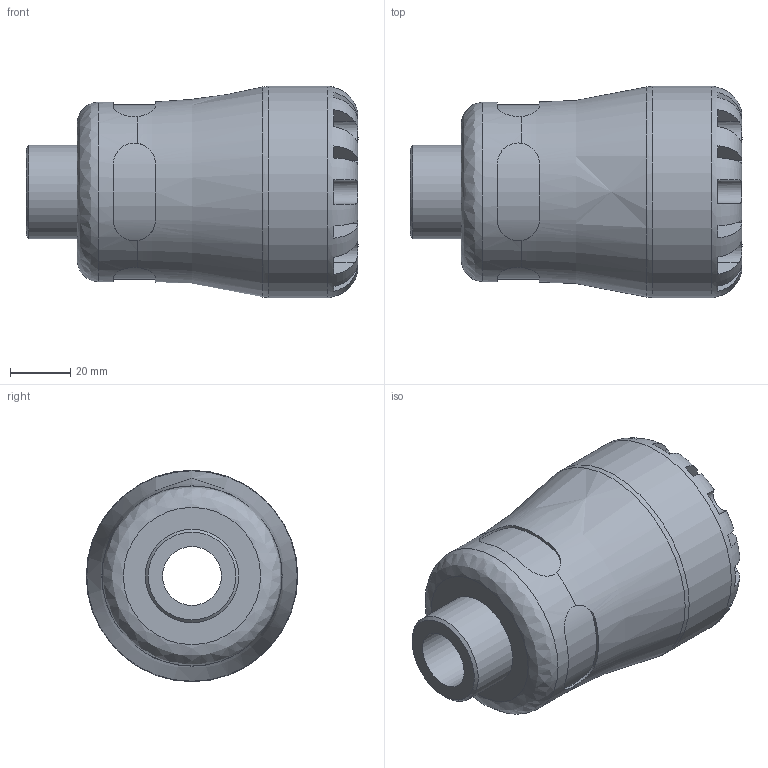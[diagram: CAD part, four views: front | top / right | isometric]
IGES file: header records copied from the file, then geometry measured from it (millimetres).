
Global section: file name: 107200040010_197200040010.ipt; native system: Autodesk Inventor 2015; preprocessor: unknown; author: KIM; date: 20170122.104935; units: millimetre
Bounding box: 110 x 70 x 70 mm (x, y, z)
Volume: 203491.4 mm3; surface area: 38562 mm2
Topology: 1 solids, 1 shells, 99 faces, 264 edges, 169 vertices
Faces by surface type: plane 60, revolution 23, cylinder 15, cone 1
Full cylindrical faces by diameter (mm): 30.931 x1, 59.5 x1, 70 x1
